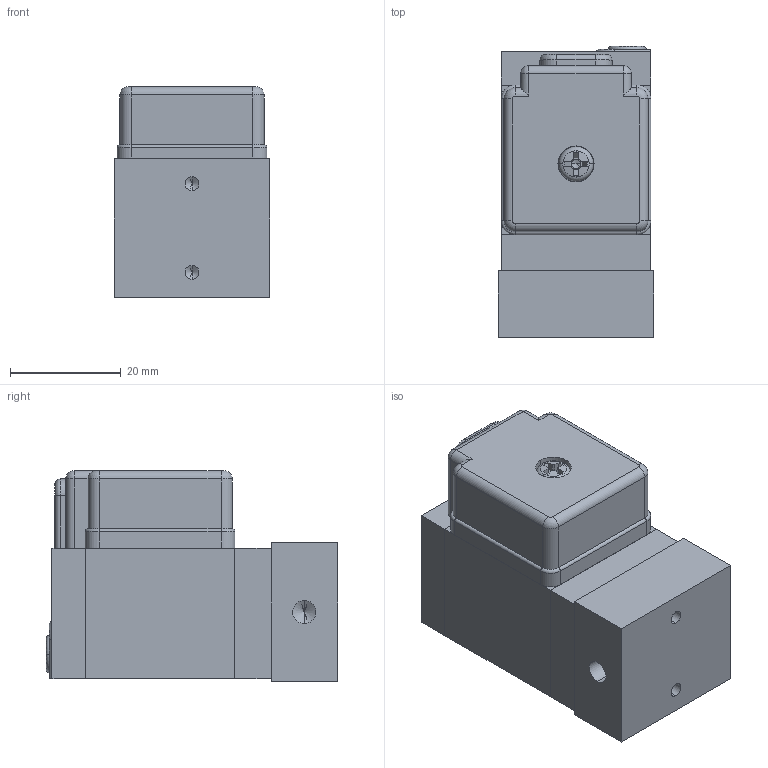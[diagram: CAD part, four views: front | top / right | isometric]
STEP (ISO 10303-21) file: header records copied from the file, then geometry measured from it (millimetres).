
FILE_DESCRIPTION (( 'STEP AP203' ), '1' );
FILE_NAME ('SS231-M5-#G#.STEP', '2016-08-01T03:16:17', ( '' ), ( '' ), 'SwSTEP 2.0', 'SolidWorks 2014', '' );
FILE_SCHEMA (( 'CONFIG_CONTROL_DESIGN' ));
Length unit declared in the file: millimetre
Products named in the file (10): G2; PCS2406-3; SS231-1; PCS2406-9; PCS2406-7; PCS2406-8; SS231-M5-#G#; PC6-M3; PC6-M4
Assembly tree (10 placements, depth 3):
  SS231-M5-#G#
    SS231-1
    G2
      PCS2406-7
      PCS2406-3
      PC6-M4
      PCS2406-8
      PCS2406-9
      PC6-M3  x2
    (unnamed)
Bounding box: 28 x 52.5 x 38 mm (x, y, z)
Volume: 44060.8 mm3; surface area: 15173.1 mm2
Topology: 9 solids, 9 shells, 240 faces, 567 edges, 341 vertices
Faces by surface type: plane 113, cylinder 56, cone 37, torus 24, sphere 10
Entity records: 6907 total; most frequent: DIRECTION 1105, CARTESIAN_POINT 1033, ORIENTED_EDGE 938, EDGE_CURVE 469, AXIS2_PLACEMENT_3D 434, VERTEX_POINT 290, LINE 237, VECTOR 237
